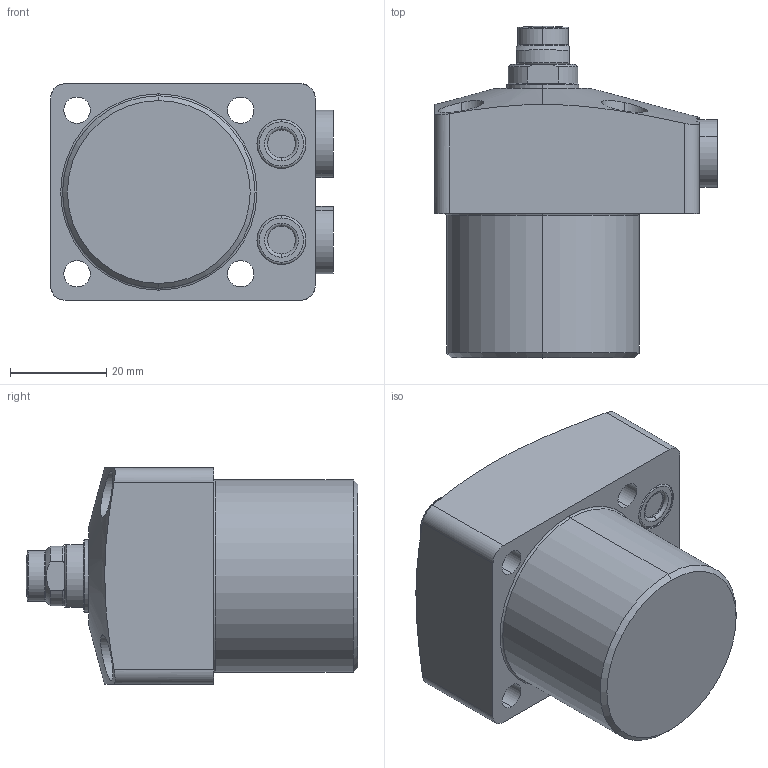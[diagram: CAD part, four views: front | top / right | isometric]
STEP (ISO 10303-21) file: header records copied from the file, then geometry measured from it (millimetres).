
FILE_DESCRIPTION(/* description */ (''),/* implementation_level */ '2;1');
FILE_NAME(/* name */ 'FSC04-M.stp',/* time_stamp */ '2025-03-10T13:54:51+08:00',/* author */ (''),/* organization */ (''),/* preprocessor_version */ 'ST-DEVELOPER v16.7',/* originating_system */ 'SIEMENS PLM Software NX 12.0',/* authorisation */ '');
FILE_SCHEMA (('AUTOMOTIVE_DESIGN { 1 0 10303 214 3 1 1 1 }'));
Length unit declared in the file: millimetre
Products named in the file (9): XLC-M10_Oring; XLC-M10SP_pin; XLC-M10SP_contactbolt; XLC-M10SP_pad; FSC04-01; FSC04-02; FSC04-04; XLC-M10_-M; FSC04_stp
Assembly tree (9 placements, depth 3):
  FSC04_stp
    FSC04-04  x2
    FSC04-02
    XLC-M10_-M
      XLC-M10SP_pad
      XLC-M10SP_contactbolt
      XLC-M10SP_pin
      XLC-M10_Oring
    FSC04-01
Bounding box: 58.8 x 69 x 45 mm (x, y, z)
Volume: 93313.4 mm3; surface area: 20066.7 mm2
Topology: 8 solids, 10 shells, 250 faces, 552 edges, 342 vertices
Faces by surface type: cylinder 98, plane 64, cone 42, torus 40, sphere 6
Entity records: 7158 total; most frequent: CARTESIAN_POINT 1662, DIRECTION 1222, ORIENTED_EDGE 1020, AXIS2_PLACEMENT_3D 528, EDGE_CURVE 510, VERTEX_POINT 316, CIRCLE 288, EDGE_LOOP 272
